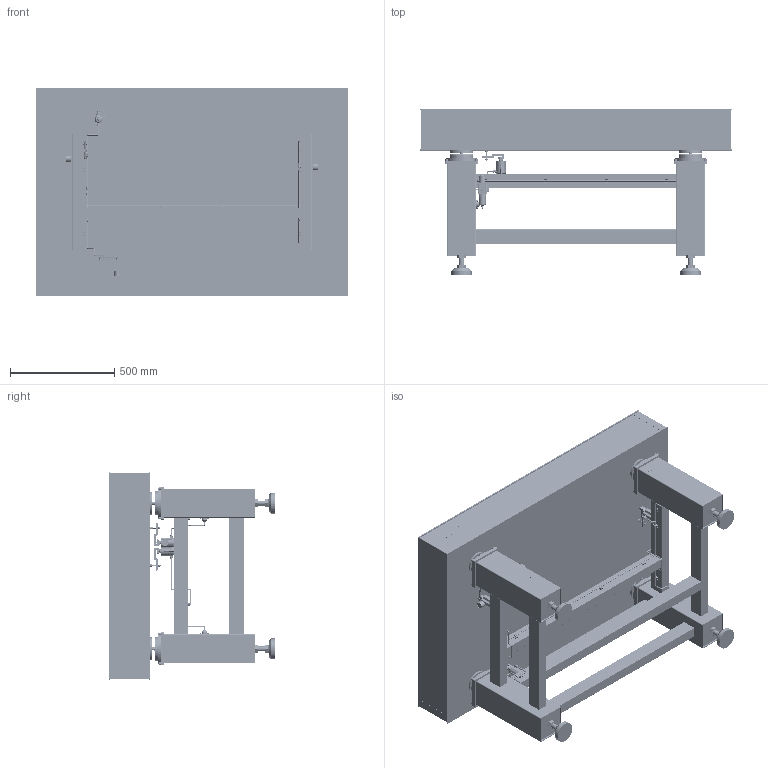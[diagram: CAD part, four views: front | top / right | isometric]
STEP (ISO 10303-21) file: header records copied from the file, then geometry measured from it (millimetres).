
FILE_DESCRIPTION (( 'STEP AP203' ), '1' );
FILE_NAME ('GPE-1510 ¹âÑ§Æ½Ì¨.STEP', '2018-02-06T03:08:46', ( 'pc' ), ( '' ), 'SwSTEP 2.0', 'SolidWorks 2016', '' );
FILE_SCHEMA (( 'CONFIG_CONTROL_DESIGN' ));
Products named in the file (1): GPE-1510 嫖悝す怢
Bounding box: 1500 x 800 x 1000 mm (x, y, z)
Volume: 33545490.5 mm3; surface area: 14429664.4 mm2
Topology: 229 solids, 229 shells, 13686 faces, 36011 edges, 23142 vertices
Faces by surface type: cylinder 7053, plane 3745, bspline 1392, cone 944, torus 488, sphere 64
Entity records: 451877 total; most frequent: CARTESIAN_POINT 101752, DIRECTION 73043, ORIENTED_EDGE 71442, EDGE_CURVE 35721, AXIS2_PLACEMENT_3D 28310, VERTEX_POINT 23142, EDGE_LOOP 19411, VECTOR 16423
